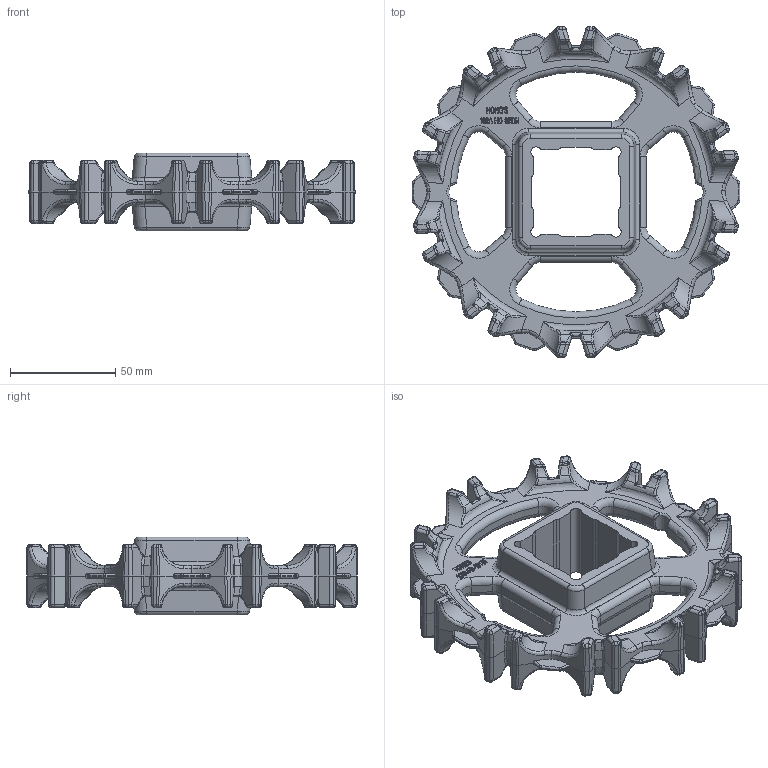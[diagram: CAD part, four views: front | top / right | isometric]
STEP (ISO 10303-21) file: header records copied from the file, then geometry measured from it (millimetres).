
FILE_DESCRIPTION(/* description */ (''),/* implementation_level */ '2;1');
FILE_NAME(/* name */ 'HS-100A-HD-N-10T.stp',/* time_stamp */ '2025-09-12T15:09:06+08:00',/* author */ (''),/* organization */ (''),/* preprocessor_version */ 'ST-DEVELOPER v15',/* originating_system */ 'SIEMENS PLM Software NX 8.5',/* authorisation */ '');
FILE_SCHEMA (('AP203_CONFIGURATION_CONTROLLED_3D_DESIGN_OF_MECHANICAL_PARTS_AND_ASSEMBLIES_MIM_LF { 1 0 10303 403 2 1 2}'));
Products named in the file (1): Admi2A20536372df
Bounding box: 155.97 x 157.3 x 37 mm (x, y, z)
Volume: 179768 mm3; surface area: 55065.9 mm2
Topology: 1 solids, 1 shells, 1996 faces, 4826 edges, 2619 vertices
Faces by surface type: bspline 772, cylinder 526, plane 402, torus 148, sphere 116, extrusion 32
Entity records: 85365 total; most frequent: CARTESIAN_POINT 32773, ORIENTED_EDGE 9176, DIRECTION 7052, EDGE_CURVE 4588, AXIS2_PLACEMENT_3D 2862, VERTEX_POINT 2623, EDGE_LOOP 2035, ADVANCED_FACE 1996
